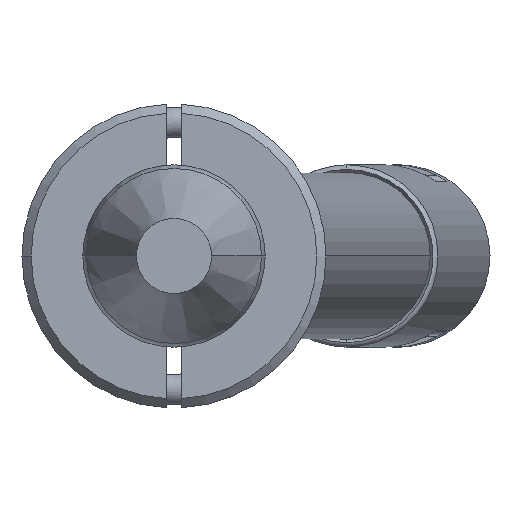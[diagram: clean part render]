
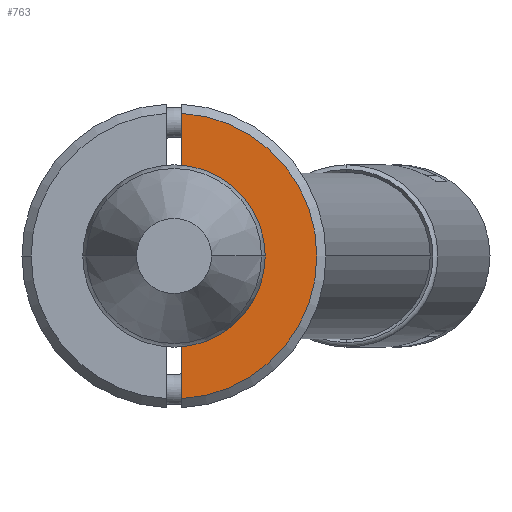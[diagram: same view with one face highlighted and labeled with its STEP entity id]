
A CAD part, front view. The second image highlights one B-rep face of the part: STEP entity #763.
In plain terms, the highlighted planar face has unit normal (0, -1, 0).
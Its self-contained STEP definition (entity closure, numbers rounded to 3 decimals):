
#88 = PLANE ( 'NONE',  #2563 ) ;
#282 = EDGE_CURVE ( 'NONE', #1947, #1859, #3361, .T. ) ;
#285 = VERTEX_POINT ( 'NONE', #3538 ) ;
#288 = DIRECTION ( 'NONE',  ( 0., 1., 0. ) ) ;
#292 = VERTEX_POINT ( 'NONE', #2702 ) ;
#328 = DIRECTION ( 'NONE',  ( 0., 1., 0. ) ) ;
#331 = VECTOR ( 'NONE', #2439, 1000. ) ;
#420 = CARTESIAN_POINT ( 'NONE',  ( 0., -6., 0. ) ) ;
#763 = ADVANCED_FACE ( 'NONE', ( #3636 ), #88, .T. ) ;
#797 = DIRECTION ( 'NONE',  ( 0., -1., 0. ) ) ;
#840 = CARTESIAN_POINT ( 'NONE',  ( 0., -6., 0. ) ) ;
#950 = DIRECTION ( 'NONE',  ( 0., 0., -1. ) ) ;
#1058 = CARTESIAN_POINT ( 'NONE',  ( -2.437, -6., -0.25 ) ) ;
#1163 = CIRCLE ( 'NONE', #3743, 2.45 ) ;
#1188 = VERTEX_POINT ( 'NONE', #3608 ) ;
#1428 = ORIENTED_EDGE ( 'NONE', *, *, #1433, .T. ) ;
#1433 = EDGE_CURVE ( 'NONE', #285, #1188, #2382, .T. ) ;
#1447 = CARTESIAN_POINT ( 'NONE',  ( 0., -6., 0. ) ) ;
#1638 = DIRECTION ( 'NONE',  ( 0., 0., -1. ) ) ;
#1671 = ORIENTED_EDGE ( 'NONE', *, *, #3637, .T. ) ;
#1859 = VERTEX_POINT ( 'NONE', #1058 ) ;
#1947 = VERTEX_POINT ( 'NONE', #3813 ) ;
#2140 = CARTESIAN_POINT ( 'NONE',  ( -5., -6., -0.25 ) ) ;
#2195 = ORIENTED_EDGE ( 'NONE', *, *, #2951, .F. ) ;
#2318 = DIRECTION ( 'NONE',  ( 0., 0., -1. ) ) ;
#2350 = ORIENTED_EDGE ( 'NONE', *, *, #2564, .F. ) ;
#2382 = CIRCLE ( 'NONE', #2821, 4.7 ) ;
#2439 = DIRECTION ( 'NONE',  ( 1., 0., 0. ) ) ;
#2468 = ORIENTED_EDGE ( 'NONE', *, *, #282, .T. ) ;
#2563 = AXIS2_PLACEMENT_3D ( 'NONE', #3652, #797, #3746 ) ;
#2564 = EDGE_CURVE ( 'NONE', #292, #1188, #3289, .T. ) ;
#2702 = CARTESIAN_POINT ( 'NONE',  ( 2.437, -6., -0.25 ) ) ;
#2778 = EDGE_LOOP ( 'NONE', ( #2195, #1428, #2350, #1671, #2468 ) ) ;
#2821 = AXIS2_PLACEMENT_3D ( 'NONE', #1447, #2923, #2318 ) ;
#2923 = DIRECTION ( 'NONE',  ( 0., -1., 0. ) ) ;
#2951 = EDGE_CURVE ( 'NONE', #285, #1859, #3059, .T. ) ;
#3059 = LINE ( 'NONE', #2140, #331 ) ;
#3289 = LINE ( 'NONE', #3574, #3835 ) ;
#3334 = DIRECTION ( 'NONE',  ( 1., 0., 0. ) ) ;
#3361 = CIRCLE ( 'NONE', #3550, 2.45 ) ;
#3538 = CARTESIAN_POINT ( 'NONE',  ( -4.693, -6., -0.25 ) ) ;
#3550 = AXIS2_PLACEMENT_3D ( 'NONE', #840, #288, #950 ) ;
#3574 = CARTESIAN_POINT ( 'NONE',  ( -5., -6., -0.25 ) ) ;
#3608 = CARTESIAN_POINT ( 'NONE',  ( 4.693, -6., -0.25 ) ) ;
#3636 = FACE_OUTER_BOUND ( 'NONE', #2778, .T. ) ;
#3637 = EDGE_CURVE ( 'NONE', #292, #1947, #1163, .T. ) ;
#3652 = CARTESIAN_POINT ( 'NONE',  ( -5., -6., 0. ) ) ;
#3743 = AXIS2_PLACEMENT_3D ( 'NONE', #420, #328, #1638 ) ;
#3746 = DIRECTION ( 'NONE',  ( 0., 0., -1. ) ) ;
#3813 = CARTESIAN_POINT ( 'NONE',  ( 0., -6., -2.45 ) ) ;
#3835 = VECTOR ( 'NONE', #3334, 1000. ) ;
